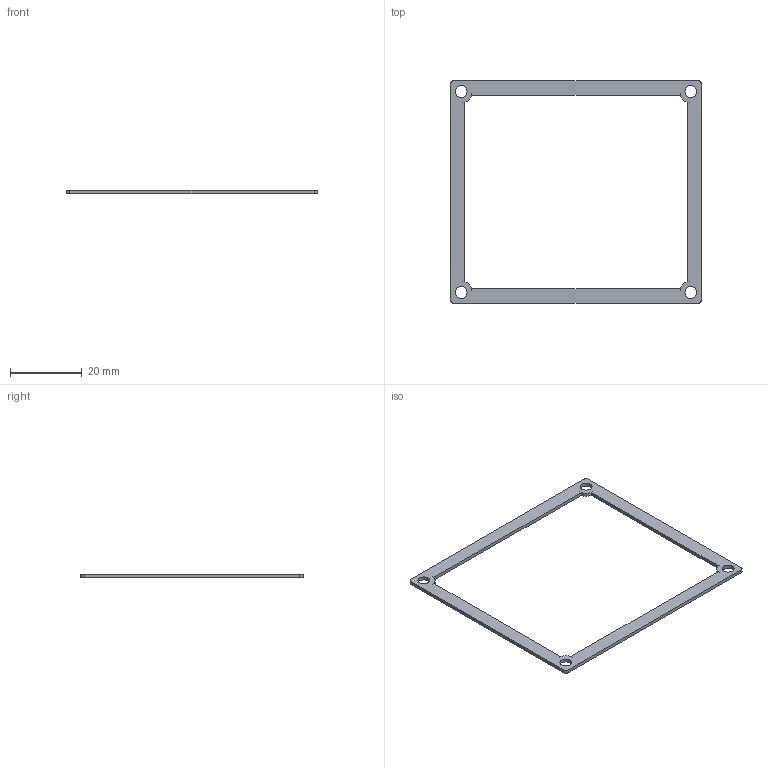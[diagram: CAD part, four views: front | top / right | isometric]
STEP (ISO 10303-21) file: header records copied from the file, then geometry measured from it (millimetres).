
FILE_DESCRIPTION(('STEP AP242 Edition 2','STEP AP242 Edition 2''CAx-IF Rec.Pracs.---Representation and Presentation of Product Manufacturing Information (PMI)---4.0---2014-10-13','STEP AP242 Edition 2''CAx-IF Rec.Pracs.---Representation and Presentation of Product Manufacturing Information (PMI)---4.0---2014-10-13''CAx-IF Rec.Pracs.---3D Tessellated Geometry---0.4---2014-09-14','STEP AP242 Edition 2''CAx-IF Rec.Pracs.---Representation and Presentation of Product Manufacturing Information (PMI)---4.0---2014-10-13''CAx-IF Rec.Pracs.---3D Tessellated Geometry---0.4---2014-09-14''2;1','STEP AP242 Edition 2''CAx-IF Rec.Pracs.---Representation and Presentation of Product Manufacturing Information (PMI)---4.0---2014-10-13''CAx-IF Rec.Pracs.---3D Tessellated Geometry---0.4---2014-09-14''2;1''CAx-IF Rec.Pracs.---User Defined Attributes---1.5---2016-08-15'),'2;1');
FILE_NAME('/vol/tmp/translate-26829232647236393/Part Studio 1 - Gasket.step','2026-04-25T00:12:13',(''),(''),'ST-DEVELOPER v20','ONSHAPE BY PTC INC, 1.214',' ');
FILE_SCHEMA(('AP242_MANAGED_MODEL_BASED_3D_ENGINEERING_MIM_LF { 1 0 10303 442 3 1 4 }'));
Length unit declared in the file: metre
Products named in the file (1): Gasket
Bounding box: 70 x 62 x 1 mm (x, y, z)
Volume: 967.6 mm3; surface area: 2474.6 mm2
Topology: 1 solids, 1 shells, 30 faces, 84 edges, 56 vertices
Faces by surface type: plane 18, cylinder 12
Full cylindrical faces by diameter (mm): 3.3 x4
Entity records: 994 total; most frequent: CARTESIAN_POINT 167, DIRECTION 166, ORIENTED_EDGE 160, EDGE_CURVE 80, VERTEX_POINT 56, LINE 56, VECTOR 56, AXIS2_PLACEMENT_3D 55
